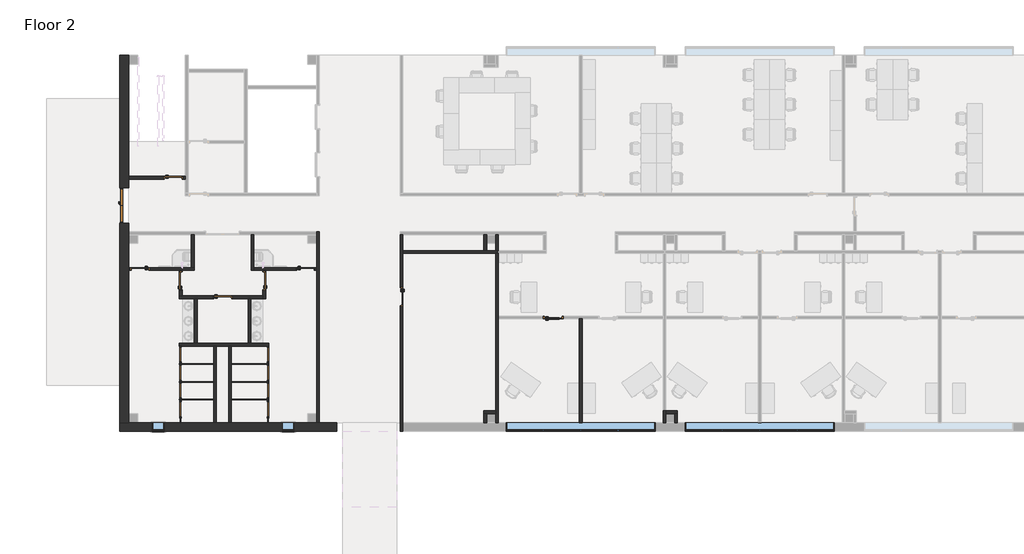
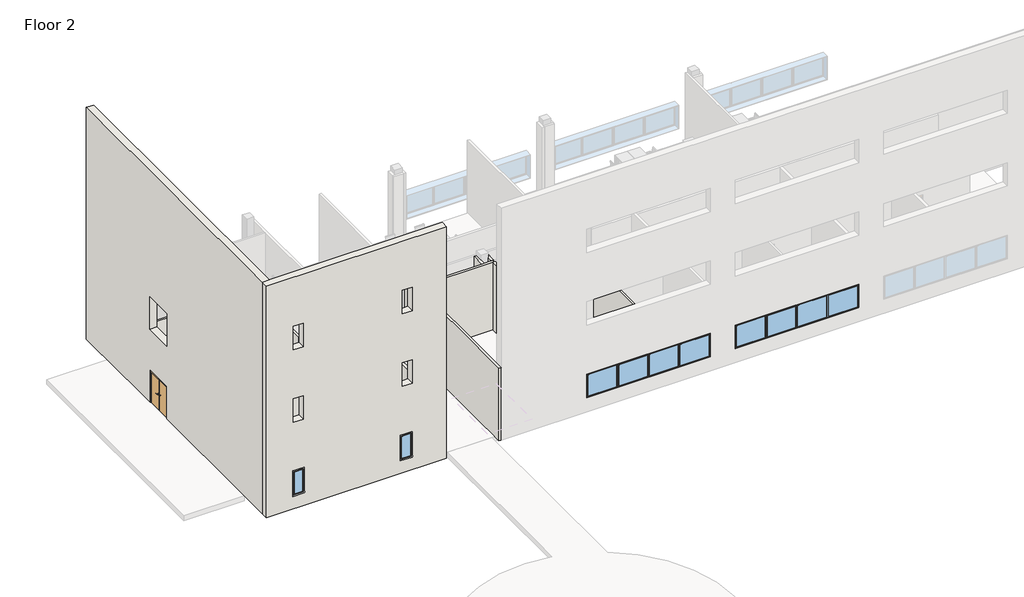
# One storey, part 1 of 6: 41 walls, 17 doors, 4 windows.
"""IFC4 building model written with IfcOpenShell, lengths in millimetres."""

from ifc_helpers import new_model, si_unit, frame, origin, place, context, project, spatial, polyline, outline, extrude, faceted_brep, transform, mapped, element, save
from components import door_efda3cbc, door_36f17018, door_a46f4f49, door_4cfbdd5f, door_b03708da, door_cef5613e, window_casement_multi_sash_horizontal_25_x_5ft_0e5d08e3, window_69ce9bab

model = new_model("IFC4")

# Units and contexts
model_context = context("Model", 3, world=origin())
ifc_project = project(units=[si_unit("LENGTHUNIT", "METRE", prefix="MILLI")], contexts=[model_context])

# Site, building, storey
site = spatial("IfcSite", under=ifc_project)
building = spatial("IfcBuilding", under=site)
storey = spatial("IfcBuildingStorey", under=building, Name="Floor 2", Elevation=5486.4)

# Doors
placement = place(None, origin())
door_shape = door_efda3cbc(model_context)
element("IfcDoor", 1, ObjectType="Door-Passage-Double-Flush : 68\" x 80\"", at=placement, inside=storey, context=model_context, shape_type="MappedRepresentation", body=[
    mapped(door_shape, transform((-3186.4602165, 49707.011889, 5486.4), x_axis=(0.0, 1.0, 0.0), y_axis=(-1.0, 0.0, 0.0), z_axis=(0.0, 0.0, 1.0))),
])
door_2_shape = door_36f17018(model_context)
element("IfcDoor", 2, ObjectType="Door-Passage-Single-Flush : 36\" x 84\"", at=placement, inside=storey, context=model_context, shape_type="MappedRepresentation", body=[
    mapped(door_2_shape, transform((3964.0192024, 45858.911889, 5486.4), x_axis=(0.0, 1.0, 0.0), y_axis=(-1.0, 0.0, 0.0), z_axis=(0.0, 0.0, 1.0))),
])
element("IfcDoor", 3, ObjectType="Door-Passage-Single-Flush : 36\" x 84\"", at=placement, inside=storey, context=model_context, shape_type="MappedRepresentation", body=[
    mapped(door_2_shape, transform((-2380.0102165, 46455.811889, 5486.4), x_axis=(-1.0, 0.0, 0.0), y_axis=(0.0, -1.0, 0.0), z_axis=(0.0, 0.0, 1.0))),
])
door_3_shape = door_a46f4f49(model_context)
element("IfcDoor", 4, ObjectType="Door-Passage-Single-Flush : 36\" x 84\"", at=placement, inside=storey, context=model_context, shape_type="MappedRepresentation", body=[
    mapped(door_3_shape, transform((-684.1807976, 51116.711889, 5486.4), x_axis=(1.0, 0.0, 0.0), y_axis=(0.0, 1.0, 0.0), z_axis=(0.0, 0.0, 1.0))),
])
element("IfcDoor", 5, ObjectType="Door-Passage-Single-Flush : 36\" x 84\"", at=placement, inside=storey, context=model_context, shape_type="MappedRepresentation", body=[
    mapped(door_3_shape, transform((-290.4807976, 45852.561889, 5486.4), x_axis=(0.0, 1.0, 0.0), y_axis=(-1.0, 0.0, 0.0), z_axis=(0.0, 0.0, 1.0))),
])
element("IfcDoor", 6, ObjectType="Door-Passage-Single-Flush : 36\" x 84\"", at=placement, inside=storey, context=model_context, shape_type="MappedRepresentation", body=[
    mapped(door_3_shape, transform((6072.2192024, 46455.811889, 5486.4), x_axis=(1.0, 0.0, 0.0), y_axis=(0.0, 1.0, 0.0), z_axis=(0.0, 0.0, 1.0))),
])
element("IfcDoor", 7, ObjectType="Door-Passage-Single-Flush : 36\" x 84\"", at=placement, inside=storey, context=model_context, shape_type="MappedRepresentation", body=[
    mapped(door_3_shape, transform((1836.7692024, 45008.011889, 5486.4), x_axis=(1.0, 0.0, 0.0), y_axis=(0.0, 1.0, 0.0), z_axis=(0.0, 0.0, 1.0))),
])
element("IfcDoor", 8, ObjectType="Door-Passage-Single-Flush : 36\" x 84\"", at=placement, inside=storey, context=model_context, shape_type="MappedRepresentation", body=[
    mapped(door_3_shape, transform((10974.4192024, 45046.111889, 5486.4), x_axis=(0.0, -1.0, 0.0), y_axis=(1.0, 0.0, 0.0), z_axis=(0.0, 0.0, 1.0))),
])
door_4_shape = door_4cfbdd5f(model_context)
element("IfcDoor", 9, ObjectType="Door-Passage-Single-Full_Lite : 36\" x 84\"", at=placement, inside=storey, context=model_context, shape_type="MappedRepresentation", body=[
    mapped(door_4_shape, transform((18727.7692024, 43985.661889, 5486.4), x_axis=(1.0, 0.0, 0.0), y_axis=(0.0, 1.0, 0.0), z_axis=(0.0, 0.0, 1.0))),
])
door_5_shape = door_b03708da(model_context)
element("IfcDoor", 10, ObjectType="Single-Flush : 30\" x 80\"", at=placement, inside=storey, context=model_context, shape_type="MappedRepresentation", body=[
    mapped(door_5_shape, transform((-322.2307976, 42096.536889, 5486.4), x_axis=(0.0, -1.0, 0.0), y_axis=(1.0, 0.0, 0.0), z_axis=(0.0, 0.0, 1.0))),
])
element("IfcDoor", 11, ObjectType="Single-Flush : 30\" x 80\"", at=placement, inside=storey, context=model_context, shape_type="MappedRepresentation", body=[
    mapped(door_5_shape, transform((-322.2307976, 41169.436889, 5486.4), x_axis=(0.0, -1.0, 0.0), y_axis=(1.0, 0.0, 0.0), z_axis=(0.0, 0.0, 1.0))),
])
element("IfcDoor", 12, ObjectType="Single-Flush : 30\" x 80\"", at=placement, inside=storey, context=model_context, shape_type="MappedRepresentation", body=[
    mapped(door_5_shape, transform((-322.2307976, 40255.036889, 5486.4), x_axis=(0.0, -1.0, 0.0), y_axis=(1.0, 0.0, 0.0), z_axis=(0.0, 0.0, 1.0))),
])
element("IfcDoor", 13, ObjectType="Single-Flush : 30\" x 80\"", at=placement, inside=storey, context=model_context, shape_type="MappedRepresentation", body=[
    mapped(door_5_shape, transform((-322.2307976, 39296.186889, 5486.4), x_axis=(0.0, -1.0, 0.0), y_axis=(1.0, 0.0, 0.0), z_axis=(0.0, 0.0, 1.0))),
])
door_6_shape = door_cef5613e(model_context)
element("IfcDoor", 14, ObjectType="Single-Flush : 30\" x 80\"", at=placement, inside=storey, context=model_context, shape_type="MappedRepresentation", body=[
    mapped(door_6_shape, transform((4148.1692024, 42096.536889, 5486.4), x_axis=(0.0, -1.0, 0.0), y_axis=(1.0, 0.0, 0.0), z_axis=(0.0, 0.0, 1.0))),
])
element("IfcDoor", 15, ObjectType="Single-Flush : 30\" x 80\"", at=placement, inside=storey, context=model_context, shape_type="MappedRepresentation", body=[
    mapped(door_6_shape, transform((4148.1692024, 41169.436889, 5486.4), x_axis=(0.0, -1.0, 0.0), y_axis=(1.0, 0.0, 0.0), z_axis=(0.0, 0.0, 1.0))),
])
element("IfcDoor", 16, ObjectType="Single-Flush : 30\" x 80\"", at=placement, inside=storey, context=model_context, shape_type="MappedRepresentation", body=[
    mapped(door_6_shape, transform((4148.1692024, 40255.036889, 5486.4), x_axis=(0.0, -1.0, 0.0), y_axis=(1.0, 0.0, 0.0), z_axis=(0.0, 0.0, 1.0))),
])
element("IfcDoor", 17, ObjectType="Single-Flush : 30\" x 80\"", at=placement, inside=storey, context=model_context, shape_type="MappedRepresentation", body=[
    mapped(door_6_shape, transform((4148.1692024, 39296.186889, 5486.4), x_axis=(0.0, -1.0, 0.0), y_axis=(1.0, 0.0, 0.0), z_axis=(0.0, 0.0, 1.0))),
])

# Walls
element("IfcWall", 18, ObjectType="Interior - 5 1/2\" Partition (1-hr)", at=placement, inside=storey, context=model_context, shape_type="Brep", body=[
    faceted_brep([(6777.0692024, 38618.324389, 5486.4), (6777.0692024, 48360.811889, 5486.4), (6777.0692024, 48360.811889, 10210.8), (6777.0692024, 38618.324389, 10210.8), (6637.3692024, 38618.324389, 5486.4), (6637.3692024, 38618.324389, 10210.8), (6637.3692024, 48360.811889, 10210.8), (6637.3692024, 48360.811889, 9906.0), (6637.3692024, 48360.811889, 5486.4), (6637.3692024, 48221.111889, 5486.4), (6637.3692024, 46532.011889, 5486.4), (6637.3692024, 46392.311889, 5486.4)], [[[0, 1, 2, 3]], [[4, 5, 6, 7, 8, 9, 10, 11]], [[1, 0, 4, 11, 10, 9, 8]], [[3, 2, 6, 5]], [[2, 1, 8, 7, 6]], [[0, 3, 5, 4]]]),
])
element("IfcWall", 19, ObjectType="Interior - 5 1/2\" Partition (1-hr)", at=placement, inside=storey, context=model_context, shape_type="SweptSolid", body=[
    extrude(outline(polyline([(7721.6, -176.1807976), (5486.4, -176.1807976), (5486.4, -61.8807976), (10210.8, -61.8807976), (10210.8, -2965.7977165), (5486.4, -2965.7977165), (5486.4, -1192.1807976), (7721.6, -1192.1807976), (7721.6, -176.1807976)])), frame((0.0, 51053.211889, 0.0), z_axis=(0.0, 1.0, 0.0), x_axis=(0.0, 0.0, 1.0)), (0.0, 0.0, 1.0), 139.7),
])
element("IfcWall", 20, ObjectType="Interior - 5 1/2\" Partition (1-hr)", at=placement, inside=storey, context=model_context, shape_type="Brep", body=[
    faceted_brep([(3290.9192024, 48221.111889, 5486.4), (3290.9192024, 46392.311889, 5486.4), (3290.9192024, 46392.311889, 9906.0), (3290.9192024, 48221.111889, 9906.0), (3430.6192024, 48221.111889, 5486.4), (3430.6192024, 48221.111889, 9906.0), (3430.6192024, 46532.011889, 9906.0), (3430.6192024, 46392.311889, 9906.0), (3430.6192024, 46392.311889, 5486.4), (3430.6192024, 46532.011889, 5486.4)], [[[0, 1, 2, 3]], [[4, 5, 6, 7, 8, 9]], [[1, 0, 4, 9, 8]], [[2, 1, 8, 7]], [[0, 3, 5, 4]], [[3, 2, 7, 6, 5]]]),
])
element("IfcWall", 21, ObjectType="Interior - 5 1/2\" Partition (1-hr)", at=placement, inside=storey, context=model_context, shape_type="Brep", body=[
    faceted_brep([(6580.2192024, 46392.311889, 7721.6), (6580.2192024, 46392.311889, 5486.4), (6637.3692024, 46392.311889, 5486.4), (6637.3692024, 46392.311889, 9906.0), (4040.2192024, 46392.311889, 9906.0), (3900.5192024, 46392.311889, 9906.0), (3430.6192024, 46392.311889, 9906.0), (3430.6192024, 46392.311889, 5486.4), (3900.5192024, 46392.311889, 5486.4), (4040.2192024, 46392.311889, 5486.4), (5564.2192024, 46392.311889, 5486.4), (5564.2192024, 46392.311889, 7721.6), (6637.3692024, 46532.011889, 5486.4), (6580.2192024, 46532.011889, 5486.4), (6580.2192024, 46532.011889, 7721.6), (5564.2192024, 46532.011889, 7721.6), (5564.2192024, 46532.011889, 5486.4), (3430.6192024, 46532.011889, 5486.4), (3430.6192024, 46532.011889, 9906.0), (6637.3692024, 46532.011889, 9906.0)], [[[0, 1, 2, 3, 4, 5, 6, 7, 8, 9, 10, 11]], [[12, 13, 14, 15, 16, 17, 18, 19]], [[2, 1, 13, 12]], [[10, 9, 8, 7, 17, 16]], [[7, 6, 18, 17]], [[3, 2, 12, 19]], [[6, 5, 4, 3, 19, 18]], [[14, 13, 1, 0]], [[15, 14, 0, 11]], [[16, 15, 11, 10]]]),
])
element("IfcWall", 22, ObjectType="Interior - 5 1/2\" Partition (1-hr)", at=placement, inside=storey, context=model_context, shape_type="Brep", body=[
    faceted_brep([(-2965.7977165, 46392.311889, 10210.8), (382.6192024, 46392.311889, 10210.8), (382.6192024, 46532.011889, 10210.8), (-2965.7977165, 46532.011889, 10210.8), (-2965.7977165, 46392.311889, 5486.4), (-2888.0102165, 46392.311889, 5486.4), (-2888.0102165, 46392.311889, 7721.6), (-1872.0102165, 46392.311889, 7721.6), (-1872.0102165, 46392.311889, 5486.4), (-366.6807976, 46392.311889, 5486.4), (-226.9807976, 46392.311889, 5486.4), (382.6192024, 46392.311889, 5486.4), (-2888.0102165, 46532.011889, 7721.6), (-2888.0102165, 46532.011889, 5486.4), (-2965.7977165, 46532.011889, 5486.4), (382.6192024, 46532.011889, 9906.0), (382.6192024, 46532.011889, 5486.4), (242.9192024, 46532.011889, 5486.4), (-1872.0102165, 46532.011889, 5486.4), (-1872.0102165, 46532.011889, 7721.6)], [[[0, 1, 2, 3]], [[4, 5, 6, 7, 8, 9, 10, 11, 1, 0]], [[12, 13, 14, 3, 2, 15, 16, 17, 18, 19]], [[14, 13, 5, 4]], [[18, 17, 16, 11, 10, 9, 8]], [[1, 11, 16, 15, 2]], [[4, 0, 3, 14]], [[6, 5, 13, 12]], [[7, 6, 12, 19]], [[8, 7, 19, 18]]]),
])
element("IfcWall", 23, ObjectType="Interior - 5 1/2\" Partition (1-hr)", at=placement, inside=storey, context=model_context, shape_type="SweptSolid", body=[
    extrude(outline(polyline([(382.6192024, 48221.111889), (382.6192024, 46532.011889), (242.9192024, 46532.011889), (242.9192024, 48221.111889), (382.6192024, 48221.111889)])), frame((0.0, 0.0, 5486.4), z_axis=(0.0, 0.0, 1.0), x_axis=(1.0, 0.0, 0.0)), (0.0, 0.0, 1.0), 4419.6),
])
element("IfcWall", 24, ObjectType="Interior - 5 1/2\" Partition (1-hr)", at=placement, inside=storey, context=model_context, shape_type="Brep", body=[
    faceted_brep([(3900.5192024, 46392.311889, 5486.4), (3900.5192024, 46366.911889, 5486.4), (3900.5192024, 46366.911889, 7721.6), (3900.5192024, 45350.911889, 7721.6), (3900.5192024, 45350.911889, 5486.4), (3900.5192024, 45084.211889, 5486.4), (3900.5192024, 44944.511889, 5486.4), (3900.5192024, 44944.511889, 9906.0), (3900.5192024, 45084.211889, 9906.0), (3900.5192024, 46392.311889, 9906.0), (4040.2192024, 46366.911889, 7721.6), (4040.2192024, 46366.911889, 5486.4), (4040.2192024, 46392.311889, 5486.4), (4040.2192024, 46392.311889, 9906.0), (4040.2192024, 44944.511889, 9906.0), (4040.2192024, 44944.511889, 5486.4), (4040.2192024, 45350.911889, 5486.4), (4040.2192024, 45350.911889, 7721.6)], [[[0, 1, 2, 3, 4, 5, 6, 7, 8, 9]], [[10, 11, 12, 13, 14, 15, 16, 17]], [[12, 11, 1, 0]], [[16, 15, 6, 5, 4]], [[0, 9, 13, 12]], [[7, 6, 15, 14]], [[9, 8, 7, 14, 13]], [[2, 1, 11, 10]], [[3, 2, 10, 17]], [[4, 3, 17, 16]]]),
])
element("IfcWall", 25, ObjectType="Interior - 5 1/2\" Partition (1-hr)", at=placement, inside=storey, context=model_context, shape_type="Brep", body=[
    faceted_brep([(3900.5192024, 45084.211889, 5486.4), (2344.7692024, 45084.211889, 5486.4), (2344.7692024, 45084.211889, 7721.6), (1328.7692024, 45084.211889, 7721.6), (1328.7692024, 45084.211889, 5486.4), (-226.9807976, 45084.211889, 5486.4), (-366.6807976, 45084.211889, 5486.4), (-366.6807976, 45084.211889, 9906.0), (-226.9807976, 45084.211889, 9906.0), (3900.5192024, 45084.211889, 9906.0), (2344.7692024, 44944.511889, 7721.6), (2344.7692024, 44944.511889, 5486.4), (3138.5192024, 44944.511889, 5486.4), (3278.2192024, 44944.511889, 5486.4), (3900.5192024, 44944.511889, 5486.4), (3900.5192024, 44944.511889, 9906.0), (3278.2192024, 44944.511889, 9906.0), (3138.5192024, 44944.511889, 9906.0), (535.0192024, 44944.511889, 9906.0), (395.3192024, 44944.511889, 9906.0), (-366.6807976, 44944.511889, 9906.0), (-366.6807976, 44944.511889, 5486.4), (395.3192024, 44944.511889, 5486.4), (535.0192024, 44944.511889, 5486.4), (1328.7692024, 44944.511889, 5486.4), (1328.7692024, 44944.511889, 7721.6)], [[[0, 1, 2, 3, 4, 5, 6, 7, 8, 9]], [[10, 11, 12, 13, 14, 15, 16, 17, 18, 19, 20, 21, 22, 23, 24, 25]], [[14, 13, 12, 11, 1, 0]], [[24, 23, 22, 21, 6, 5, 4]], [[0, 9, 15, 14]], [[7, 6, 21, 20]], [[9, 8, 7, 20, 19, 18, 17, 16, 15]], [[2, 1, 11, 10]], [[3, 2, 10, 25]], [[4, 3, 25, 24]]]),
])
element("IfcWall", 26, ObjectType="Interior - 5 1/2\" Partition (1-hr)", at=placement, inside=storey, context=model_context, shape_type="Brep", body=[
    faceted_brep([(2147.9192024, 42518.811889, 5486.4), (2147.9192024, 38618.324389, 5486.4), (2147.9192024, 38618.324389, 10210.8), (2147.9192024, 42518.811889, 10210.8), (2287.6192024, 42518.811889, 5486.4), (2287.6192024, 42518.811889, 10210.8), (2287.6192024, 38618.324389, 10210.8), (2287.6192024, 38618.324389, 5486.4), (2287.6192024, 39788.311889, 5486.4), (2287.6192024, 39813.711889, 5486.4), (2287.6192024, 40677.311889, 5486.4), (2287.6192024, 40702.711889, 5486.4), (2287.6192024, 41591.711889, 5486.4), (2287.6192024, 41617.111889, 5486.4)], [[[0, 1, 2, 3]], [[4, 5, 6, 7, 8, 9, 10, 11, 12, 13]], [[1, 0, 4, 13, 12, 11, 10, 9, 8, 7]], [[3, 2, 6, 5]], [[0, 3, 5, 4]], [[2, 1, 7, 6]]]),
])
element("IfcWall", 27, ObjectType="Interior - 5 1/2\" Partition (1-hr)", at=placement, inside=storey, context=model_context, shape_type="Brep", body=[
    faceted_brep([(-373.0307976, 42518.811889, 5486.4), (-334.9307976, 42518.811889, 5486.4), (-309.5307976, 42518.811889, 5486.4), (1385.9192024, 42518.811889, 5486.4), (1525.6192024, 42518.811889, 5486.4), (2147.9192024, 42518.811889, 5486.4), (2287.6192024, 42518.811889, 5486.4), (4135.4692024, 42518.811889, 5486.4), (4160.8692024, 42518.811889, 5486.4), (4198.9692024, 42518.811889, 5486.4), (4198.9692024, 42518.811889, 9906.0), (-373.0307976, 42518.811889, 9906.0), (-373.0307976, 42658.511889, 5486.4), (-373.0307976, 42658.511889, 9906.0), (395.3192024, 42658.511889, 9906.0), (535.0192024, 42658.511889, 9906.0), (3138.5192024, 42658.511889, 9906.0), (3278.2192024, 42658.511889, 9906.0), (4198.9692024, 42658.511889, 9906.0), (4198.9692024, 42658.511889, 5486.4), (3278.2192024, 42658.511889, 5486.4), (3138.5192024, 42658.511889, 5486.4), (535.0192024, 42658.511889, 5486.4), (395.3192024, 42658.511889, 5486.4)], [[[0, 1, 2, 3, 4, 5, 6, 7, 8, 9, 10, 11]], [[12, 13, 14, 15, 16, 17, 18, 19, 20, 21, 22, 23]], [[9, 8, 7, 6, 5, 4, 3, 2, 1, 0, 12, 23, 22, 21, 20, 19]], [[10, 9, 19, 18]], [[0, 11, 13, 12]], [[11, 10, 18, 17, 16, 15, 14, 13]]]),
])
element("IfcWall", 28, ObjectType="Interior - 5 1/2\" Partition (1-hr)", at=placement, inside=storey, context=model_context, shape_type="SweptSolid", body=[
    extrude(outline(polyline([(3278.2192024, 44944.511889), (3278.2192024, 42658.511889), (3138.5192024, 42658.511889), (3138.5192024, 44944.511889), (3278.2192024, 44944.511889)])), frame((0.0, 0.0, 5486.4), z_axis=(0.0, 0.0, 1.0), x_axis=(1.0, 0.0, 0.0)), (0.0, 0.0, 1.0), 4419.6),
])
element("IfcWall", 29, ObjectType="Interior - 5 1/2\" Partition (1-hr)", at=placement, inside=storey, context=model_context, shape_type="Brep", body=[
    faceted_brep([(1385.9192024, 42518.811889, 5486.4), (1385.9192024, 41617.111889, 5486.4), (1385.9192024, 41591.711889, 5486.4), (1385.9192024, 40702.711889, 5486.4), (1385.9192024, 40677.311889, 5486.4), (1385.9192024, 39813.711889, 5486.4), (1385.9192024, 39788.311889, 5486.4), (1385.9192024, 38618.324389, 5486.4), (1385.9192024, 38618.324389, 10210.8), (1385.9192024, 42518.811889, 10210.8), (1525.6192024, 42518.811889, 5486.4), (1525.6192024, 42518.811889, 10210.8), (1525.6192024, 38618.324389, 10210.8), (1525.6192024, 38618.324389, 5486.4)], [[[0, 1, 2, 3, 4, 5, 6, 7, 8, 9]], [[10, 11, 12, 13]], [[7, 6, 5, 4, 3, 2, 1, 0, 10, 13]], [[9, 8, 12, 11]], [[0, 9, 11, 10]], [[8, 7, 13, 12]]]),
])
element("IfcWall", 30, ObjectType="Interior - 5 1/2\" Partition (1-hr)", at=placement, inside=storey, context=model_context, shape_type="SweptSolid", body=[
    extrude(outline(polyline([(46392.311889, 5486.4), (46360.561889, 5486.4), (46360.561889, 7721.6), (45344.561889, 7721.6), (45344.561889, 5486.4), (45084.211889, 5486.4), (45084.211889, 9906.0), (46392.311889, 9906.0), (46392.311889, 5486.4)])), frame((-366.6807976, 0.0, 0.0), z_axis=(1.0, 0.0, 0.0), x_axis=(0.0, 1.0, 0.0)), (0.0, 0.0, 1.0), 139.7),
])
element("IfcWall", 31, ObjectType="Interior - 5 1/2\" Partition (1-hr)", at=placement, inside=storey, context=model_context, shape_type="SweptSolid", body=[
    extrude(outline(polyline([(395.3192024, 42658.511889), (395.3192024, 44944.511889), (535.0192024, 44944.511889), (535.0192024, 42658.511889), (395.3192024, 42658.511889)])), frame((0.0, 0.0, 5486.4), z_axis=(0.0, 0.0, 1.0), x_axis=(1.0, 0.0, 0.0)), (0.0, 0.0, 1.0), 4419.6),
])
element("IfcWall", 32, ObjectType="Interior - 5 1/2\" Partition (1-hr)", at=placement, inside=storey, context=model_context, shape_type="Brep", body=[
    faceted_brep([(10910.9192024, 48221.111889, 10210.8), (10910.9192024, 38164.299389, 10210.8), (11050.6192024, 38164.299389, 10210.8), (11050.6192024, 48221.111889, 10210.8), (11050.6192024, 38164.299389, 5486.4), (11050.6192024, 38618.324389, 5486.4), (11050.6192024, 44538.111889, 5486.4), (11050.6192024, 44538.111889, 7721.6), (11050.6192024, 45554.111889, 7721.6), (11050.6192024, 45554.111889, 5486.4), (11050.6192024, 47262.261889, 5486.4), (11050.6192024, 47401.961889, 5486.4), (11050.6192024, 48221.111889, 5486.4), (10910.9192024, 48221.111889, 9906.0), (10910.9192024, 48221.111889, 5486.4), (10910.9192024, 45554.111889, 5486.4), (10910.9192024, 45554.111889, 7721.6), (10910.9192024, 44538.111889, 7721.6), (10910.9192024, 44538.111889, 5486.4), (10910.9192024, 38164.299389, 5486.4)], [[[0, 1, 2, 3]], [[3, 2, 4, 5, 6, 7, 8, 9, 10, 11, 12]], [[1, 0, 13, 14, 15, 16, 17, 18, 19]], [[14, 12, 11, 10, 9, 15]], [[4, 19, 18, 6, 5]], [[14, 13, 0, 3, 12]], [[1, 19, 4, 2]], [[17, 7, 6, 18]], [[7, 17, 16, 8]], [[8, 16, 15, 9]]]),
])
element("IfcWall", 33, ObjectType="Interior - 5 1/2\" Partition (1-hr)", at=placement, inside=storey, context=model_context, shape_type="Brep", body=[
    faceted_brep([(15324.1692024, 47401.961889, 5486.4), (15324.1692024, 47763.911889, 5486.4), (15324.1692024, 48221.111889, 5486.4), (15324.1692024, 48221.111889, 9906.0), (15324.1692024, 47401.961889, 9906.0), (15184.4692024, 47401.961889, 5486.4), (15184.4692024, 47401.961889, 9906.0), (15184.4692024, 48221.111889, 9906.0), (15184.4692024, 48221.111889, 5486.4)], [[[0, 1, 2, 3, 4]], [[5, 6, 7, 8]], [[2, 1, 0, 5, 8]], [[0, 4, 6, 5]], [[3, 2, 8, 7]], [[4, 3, 7, 6]]]),
])
element("IfcWall", 34, ObjectType="Interior - 5 1/2\" Partition (1-hr)", at=placement, inside=storey, context=model_context, shape_type="Brep", body=[
    faceted_brep([(15921.0692024, 47401.961889, 5486.4), (15921.0692024, 48221.111889, 5486.4), (15921.0692024, 48221.111889, 9906.0), (15921.0692024, 47401.961889, 9906.0), (15781.3692024, 47401.961889, 5486.4), (15781.3692024, 47401.961889, 9906.0), (15781.3692024, 48221.111889, 9906.0), (15781.3692024, 48221.111889, 5486.4), (15781.3692024, 47763.911889, 5486.4), (15851.2192024, 47401.961889, 5486.4), (15851.2192024, 47401.961889, 9906.0)], [[[0, 1, 2, 3]], [[4, 5, 6, 7, 8]], [[1, 0, 9, 4, 8, 7]], [[0, 3, 10, 5, 4, 9]], [[2, 1, 7, 6]], [[3, 2, 6, 5, 10]]]),
])
element("IfcWall", 35, ObjectType="Interior - 5 1/2\" Partition (1-hr)", at=placement, inside=storey, context=model_context, shape_type="Brep", body=[
    faceted_brep([(15921.0692024, 47262.261889, 5486.4), (15921.0692024, 47262.261889, 9906.0), (15921.0692024, 38618.324389, 9906.0), (15921.0692024, 38618.324389, 5486.4), (15921.0692024, 43909.461889, 5486.4), (15921.0692024, 44049.161889, 5486.4), (15781.3692024, 47262.261889, 5486.4), (15781.3692024, 39216.811889, 5486.4), (15781.3692024, 39077.111889, 5486.4), (15781.3692024, 38619.911889, 5486.4), (15781.3692024, 38618.324389, 5486.4), (15781.3692024, 38618.324389, 9906.0), (15781.3692024, 39077.111889, 9906.0), (15781.3692024, 39216.811889, 9906.0), (15781.3692024, 47262.261889, 9906.0), (15851.2192024, 47262.261889, 5486.4), (15851.2192024, 47262.261889, 9906.0)], [[[0, 1, 2, 3, 4, 5]], [[6, 7, 8, 9, 10, 11, 12, 13, 14]], [[10, 9, 8, 7, 6, 15, 0, 5, 4, 3]], [[14, 13, 12, 11, 2, 1, 16]], [[6, 14, 16, 1, 0, 15]], [[11, 10, 3, 2]]]),
])
element("IfcWall", 36, ObjectType="Interior - 5 1/2\" Partition (1-hr)", at=placement, inside=storey, context=model_context, shape_type="Brep", body=[
    faceted_brep([(15781.3692024, 39216.811889, 5486.4), (15184.4692024, 39216.811889, 5486.4), (15184.4692024, 39216.811889, 9906.0), (15781.3692024, 39216.811889, 9906.0), (15781.3692024, 39077.111889, 5486.4), (15781.3692024, 39077.111889, 9906.0), (15324.1692024, 39077.111889, 9906.0), (15184.4692024, 39077.111889, 9906.0), (15184.4692024, 39077.111889, 5486.4), (15324.1692024, 39077.111889, 5486.4)], [[[0, 1, 2, 3]], [[4, 5, 6, 7, 8, 9]], [[1, 0, 4, 9, 8]], [[2, 1, 8, 7]], [[0, 3, 5, 4]], [[3, 2, 7, 6, 5]]]),
])
element("IfcWall", 37, ObjectType="Interior - 5 1/2\" Partition (1-hr)", at=placement, inside=storey, context=model_context, shape_type="Brep", body=[
    faceted_brep([(15184.4692024, 39077.111889, 5486.4), (15184.4692024, 38618.324389, 5486.4), (15184.4692024, 38618.324389, 9906.0), (15184.4692024, 39077.111889, 9906.0), (15324.1692024, 39077.111889, 5486.4), (15324.1692024, 39077.111889, 9906.0), (15324.1692024, 38618.324389, 9906.0), (15324.1692024, 38618.324389, 5486.4), (15324.1692024, 38619.911889, 5486.4)], [[[0, 1, 2, 3]], [[4, 5, 6, 7, 8]], [[1, 0, 4, 8, 7]], [[0, 3, 5, 4]], [[2, 1, 7, 6]], [[3, 2, 6, 5]]]),
])
element("IfcWall", 38, ObjectType="Interior - 5 1/2\" Partition (1-hr)", at=placement, inside=storey, context=model_context, shape_type="Brep", body=[
    faceted_brep([(24468.1692024, 38618.324389, 5486.4), (24468.1692024, 38619.911889, 5486.4), (24468.1692024, 39077.111889, 5486.4), (24468.1692024, 39216.811889, 5486.4), (24468.1692024, 39216.811889, 9906.0), (24468.1692024, 39077.111889, 9906.0), (24468.1692024, 38618.324389, 9906.0), (24328.4692024, 38618.324389, 5486.4), (24328.4692024, 38618.324389, 9906.0), (24328.4692024, 39216.811889, 9906.0), (24328.4692024, 39216.811889, 5486.4)], [[[0, 1, 2, 3, 4, 5, 6]], [[7, 8, 9, 10]], [[3, 2, 1, 0, 7, 10]], [[4, 3, 10, 9]], [[0, 6, 8, 7]], [[6, 5, 4, 9, 8]]]),
])
element("IfcWall", 39, ObjectType="Interior - 5 1/2\" Partition (1-hr)", at=placement, inside=storey, context=model_context, shape_type="Brep", body=[
    faceted_brep([(24468.1692024, 39077.111889, 5486.4), (24925.3692024, 39077.111889, 5486.4), (25065.0692024, 39077.111889, 5486.4), (25065.0692024, 39077.111889, 9906.0), (24925.3692024, 39077.111889, 9906.0), (24468.1692024, 39077.111889, 9906.0), (24468.1692024, 39216.811889, 5486.4), (24468.1692024, 39216.811889, 9906.0), (25065.0692024, 39216.811889, 9906.0), (25065.0692024, 39216.811889, 5486.4)], [[[0, 1, 2, 3, 4, 5]], [[6, 7, 8, 9]], [[2, 1, 0, 6, 9]], [[3, 2, 9, 8]], [[0, 5, 7, 6]], [[5, 4, 3, 8, 7]]]),
])
element("IfcWall", 40, ObjectType="Interior - 5 1/2\" Partition (1-hr)", at=placement, inside=storey, context=model_context, shape_type="Brep", body=[
    faceted_brep([(24925.3692024, 39077.111889, 5486.4), (24925.3692024, 38619.911889, 5486.4), (24925.3692024, 38618.324389, 5486.4), (24925.3692024, 38618.324389, 9906.0), (24925.3692024, 39077.111889, 9906.0), (25065.0692024, 39077.111889, 5486.4), (25065.0692024, 39077.111889, 9906.0), (25065.0692024, 38618.324389, 9906.0), (25065.0692024, 38618.324389, 5486.4)], [[[0, 1, 2, 3, 4]], [[5, 6, 7, 8]], [[2, 1, 0, 5, 8]], [[0, 4, 6, 5]], [[3, 2, 8, 7]], [[4, 3, 7, 6]]]),
])
element("IfcWall", 41, ObjectType="Interior - 5 1/2\" Partition (1-hr)", at=placement, inside=storey, context=model_context, shape_type="SweptSolid", body=[
    extrude(outline(polyline([(20054.9192024, 38618.324389), (20054.9192024, 43909.461889), (20194.6192024, 43909.461889), (20194.6192024, 38618.324389), (20054.9192024, 38618.324389)])), frame((0.0, 0.0, 5486.4), z_axis=(0.0, 0.0, 1.0), x_axis=(1.0, 0.0, 0.0)), (0.0, 0.0, 1.0), 4724.4),
])
element("IfcWall", 42, ObjectType="Interior - 5 1/2\" Partition (1-hr)", at=placement, inside=storey, context=model_context, shape_type="Brep", body=[
    faceted_brep([(15851.2192024, 47401.961889, 5486.4), (15781.3692024, 47401.961889, 5486.4), (15324.1692024, 47401.961889, 5486.4), (15184.4692024, 47401.961889, 5486.4), (11050.6192024, 47401.961889, 5486.4), (11050.6192024, 47401.961889, 9906.0), (15184.4692024, 47401.961889, 9906.0), (15324.1692024, 47401.961889, 9906.0), (15781.3692024, 47401.961889, 9906.0), (15851.2192024, 47401.961889, 9906.0), (15851.2192024, 47262.261889, 5486.4), (15851.2192024, 47262.261889, 9906.0), (15781.3692024, 47262.261889, 9906.0), (11050.6192024, 47262.261889, 9906.0), (11050.6192024, 47262.261889, 5486.4), (15781.3692024, 47262.261889, 5486.4)], [[[0, 1, 2, 3, 4, 5, 6, 7, 8, 9]], [[10, 11, 12, 13, 14, 15]], [[4, 3, 2, 1, 0, 10, 15, 14]], [[0, 9, 11, 10]], [[5, 4, 14, 13]], [[9, 8, 7, 6, 5, 13, 12, 11]]]),
])
element("IfcWall", 43, ObjectType="Stone on CMU", at=placement, inside=storey, context=model_context, shape_type="Brep", body=[
    faceted_brep([(7675.2526119, 38618.324389, 5486.4), (6777.0692024, 38618.324389, 5486.4), (6637.3692024, 38618.324389, 5486.4), (4160.8692024, 38618.324389, 5486.4), (4135.4692024, 38618.324389, 5486.4), (2287.6192024, 38618.324389, 5486.4), (2147.9192024, 38618.324389, 5486.4), (1525.6192024, 38618.324389, 5486.4), (1385.9192024, 38618.324389, 5486.4), (-309.5307976, 38618.324389, 5486.4), (-334.9307976, 38618.324389, 5486.4), (-2965.7977165, 38618.324389, 5486.4), (-3419.8227165, 38618.324389, 5486.4), (-3419.8227165, 38618.324389, 20574.0), (-2965.7977165, 38618.324389, 20574.0), (7675.2526119, 38618.324389, 20574.0), (7675.2526119, 38618.324389, 19659.6), (-1750.9807976, 38618.324389, 17373.6), (-1750.9807976, 38618.324389, 15849.6), (-1141.3807976, 38618.324389, 15849.6), (-1141.3807976, 38618.324389, 17373.6), (4954.6192024, 38618.324389, 17373.6), (4954.6192024, 38618.324389, 15849.6), (5564.2192024, 38618.324389, 15849.6), (5564.2192024, 38618.324389, 17373.6), (-1750.9807976, 38618.324389, 12649.2), (-1750.9807976, 38618.324389, 11125.2), (-1141.3807976, 38618.324389, 11125.2), (-1141.3807976, 38618.324389, 12649.2), (4954.6192024, 38618.324389, 12649.2), (4954.6192024, 38618.324389, 11125.2), (5564.2192024, 38618.324389, 11125.2), (5564.2192024, 38618.324389, 12649.2), (-1750.9807976, 38618.324389, 7924.8), (-1750.9807976, 38618.324389, 6400.8), (-1141.3807976, 38618.324389, 6400.8), (-1141.3807976, 38618.324389, 7924.8), (4884.7692024, 38618.324389, 7924.8), (4884.7692024, 38618.324389, 6400.8), (5494.3692024, 38618.324389, 6400.8), (5494.3692024, 38618.324389, 7924.8), (7675.2526119, 38164.299389, 5486.4), (7675.2526119, 38164.299389, 20574.0), (-3419.8227165, 38164.299389, 20574.0), (-3419.8227165, 38164.299389, 5486.4), (-1750.9807976, 38164.299389, 17373.6), (-1141.3807976, 38164.299389, 17373.6), (-1141.3807976, 38164.299389, 15849.6), (-1750.9807976, 38164.299389, 15849.6), (4954.6192024, 38164.299389, 17373.6), (5564.2192024, 38164.299389, 17373.6), (5564.2192024, 38164.299389, 15849.6), (4954.6192024, 38164.299389, 15849.6), (-1750.9807976, 38164.299389, 12649.2), (-1141.3807976, 38164.299389, 12649.2), (-1141.3807976, 38164.299389, 11125.2), (-1750.9807976, 38164.299389, 11125.2), (4954.6192024, 38164.299389, 12649.2), (5564.2192024, 38164.299389, 12649.2), (5564.2192024, 38164.299389, 11125.2), (4954.6192024, 38164.299389, 11125.2), (-1750.9807976, 38164.299389, 7924.8), (-1141.3807976, 38164.299389, 7924.8), (-1141.3807976, 38164.299389, 6400.8), (-1750.9807976, 38164.299389, 6400.8), (4884.7692024, 38164.299389, 7924.8), (5494.3692024, 38164.299389, 7924.8), (5494.3692024, 38164.299389, 6400.8), (4884.7692024, 38164.299389, 6400.8)], [[[0, 1, 2, 3, 4, 5, 6, 7, 8, 9, 10, 11, 12, 13, 14, 15, 16], [17, 18, 19, 20], [21, 22, 23, 24], [25, 26, 27, 28], [29, 30, 31, 32], [33, 34, 35, 36], [37, 38, 39, 40]], [[41, 42, 43, 44], [45, 46, 47, 48], [49, 50, 51, 52], [53, 54, 55, 56], [57, 58, 59, 60], [61, 62, 63, 64], [65, 66, 67, 68]], [[12, 11, 10, 9, 8, 7, 6, 5, 4, 3, 2, 1, 0, 41, 44]], [[15, 14, 13, 43, 42]], [[13, 12, 44, 43]], [[0, 16, 15, 42, 41]], [[18, 17, 45, 48]], [[19, 18, 48, 47]], [[20, 19, 47, 46]], [[17, 20, 46, 45]], [[22, 21, 49, 52]], [[23, 22, 52, 51]], [[24, 23, 51, 50]], [[21, 24, 50, 49]], [[26, 25, 53, 56]], [[27, 26, 56, 55]], [[28, 27, 55, 54]], [[25, 28, 54, 53]], [[30, 29, 57, 60]], [[31, 30, 60, 59]], [[32, 31, 59, 58]], [[29, 32, 58, 57]], [[34, 33, 61, 64]], [[35, 34, 64, 63]], [[36, 35, 63, 62]], [[33, 36, 62, 61]], [[38, 37, 65, 68]], [[39, 38, 68, 67]], [[40, 39, 67, 66]], [[37, 40, 66, 65]]]),
])
element("IfcWall", 44, ObjectType="Stone on CMU", at=placement, inside=storey, context=model_context, shape_type="Brep", body=[
    faceted_brep([(-2965.7977165, 57366.699389, 20574.0), (-2965.7977165, 38618.324389, 20574.0), (-2965.7977165, 38618.324389, 5486.4), (-2965.7977165, 46392.311889, 5486.4), (-2965.7977165, 46532.011889, 5486.4), (-2965.7977165, 48221.111889, 5486.4), (-2965.7977165, 48360.811889, 5486.4), (-2965.7977165, 48792.611889, 5486.4), (-2965.7977165, 48792.611889, 7620.0), (-2965.7977165, 50621.411889, 7620.0), (-2965.7977165, 50621.411889, 5486.4), (-2965.7977165, 51053.211889, 5486.4), (-2965.7977165, 51192.911889, 5486.4), (-2965.7977165, 57366.699389, 5486.4), (-2965.7977165, 50621.411889, 10210.8), (-2965.7977165, 48792.611889, 10210.8), (-2965.7977165, 48792.611889, 12344.4), (-2965.7977165, 50621.411889, 12344.4), (-3419.8227165, 38618.324389, 20574.0), (-3419.8227165, 57366.699389, 20574.0), (-3419.8227165, 57366.699389, 5486.4), (-3419.8227165, 50621.411889, 5486.4), (-3419.8227165, 50621.411889, 7620.0), (-3419.8227165, 48792.611889, 7620.0), (-3419.8227165, 48792.611889, 5486.4), (-3419.8227165, 38618.324389, 5486.4), (-3419.8227165, 50621.411889, 10210.8), (-3419.8227165, 50621.411889, 12344.4), (-3419.8227165, 48792.611889, 12344.4), (-3419.8227165, 48792.611889, 10210.8)], [[[0, 1, 2, 3, 4, 5, 6, 7, 8, 9, 10, 11, 12, 13], [14, 15, 16, 17]], [[18, 19, 20, 21, 22, 23, 24, 25], [26, 27, 28, 29]], [[2, 25, 24, 7, 6, 5, 4, 3]], [[20, 13, 12, 11, 10, 21]], [[1, 0, 19, 18]], [[2, 1, 18, 25]], [[0, 13, 20, 19]], [[9, 22, 21, 10]], [[22, 9, 8, 23]], [[23, 8, 7, 24]], [[27, 26, 14, 17]], [[28, 27, 17, 16]], [[29, 28, 16, 15]], [[26, 29, 15, 14]]]),
])
element("IfcWall", 45, ObjectType="toilet partition - 1\"", at=placement, inside=storey, context=model_context, shape_type="Brep", body=[
    faceted_brep([(2287.6192024, 39788.311889, 5486.4), (4135.4692024, 39788.311889, 5486.4), (4160.8692024, 39788.311889, 5486.4), (4198.9692024, 39788.311889, 5486.4), (4198.9692024, 39788.311889, 7924.8), (4160.8692024, 39788.311889, 7924.8), (4135.4692024, 39788.311889, 7924.8), (2287.6192024, 39788.311889, 7924.8), (2287.6192024, 39813.711889, 5486.4), (2287.6192024, 39813.711889, 7924.8), (4135.4692024, 39813.711889, 7924.8), (4160.8692024, 39813.711889, 7924.8), (4198.9692024, 39813.711889, 7924.8), (4198.9692024, 39813.711889, 5486.4), (4160.8692024, 39813.711889, 5486.4), (4135.4692024, 39813.711889, 5486.4)], [[[0, 1, 2, 3, 4, 5, 6, 7]], [[8, 9, 10, 11, 12, 13, 14, 15]], [[3, 2, 1, 0, 8, 15, 14, 13]], [[4, 3, 13, 12]], [[7, 6, 5, 4, 12, 11, 10, 9]], [[0, 7, 9, 8]]]),
])
element("IfcWall", 46, ObjectType="toilet partition - 1\"", at=placement, inside=storey, context=model_context, shape_type="Brep", body=[
    faceted_brep([(2287.6192024, 40677.311889, 5486.4), (4135.4692024, 40677.311889, 5486.4), (4160.8692024, 40677.311889, 5486.4), (4198.9692024, 40677.311889, 5486.4), (4198.9692024, 40677.311889, 7924.8), (4160.8692024, 40677.311889, 7924.8), (4135.4692024, 40677.311889, 7924.8), (2287.6192024, 40677.311889, 7924.8), (2287.6192024, 40702.711889, 5486.4), (2287.6192024, 40702.711889, 7924.8), (4135.4692024, 40702.711889, 7924.8), (4160.8692024, 40702.711889, 7924.8), (4198.9692024, 40702.711889, 7924.8), (4198.9692024, 40702.711889, 5486.4), (4160.8692024, 40702.711889, 5486.4), (4135.4692024, 40702.711889, 5486.4)], [[[0, 1, 2, 3, 4, 5, 6, 7]], [[8, 9, 10, 11, 12, 13, 14, 15]], [[3, 2, 1, 0, 8, 15, 14, 13]], [[4, 3, 13, 12]], [[7, 6, 5, 4, 12, 11, 10, 9]], [[0, 7, 9, 8]]]),
])
element("IfcWall", 47, ObjectType="toilet partition - 1\"", at=placement, inside=storey, context=model_context, shape_type="Brep", body=[
    faceted_brep([(2287.6192024, 41591.711889, 5486.4), (4135.4692024, 41591.711889, 5486.4), (4160.8692024, 41591.711889, 5486.4), (4198.9692024, 41591.711889, 5486.4), (4198.9692024, 41591.711889, 7924.8), (4160.8692024, 41591.711889, 7924.8), (4135.4692024, 41591.711889, 7924.8), (2287.6192024, 41591.711889, 7924.8), (2287.6192024, 41617.111889, 5486.4), (2287.6192024, 41617.111889, 7924.8), (4135.4692024, 41617.111889, 7924.8), (4160.8692024, 41617.111889, 7924.8), (4198.9692024, 41617.111889, 7924.8), (4198.9692024, 41617.111889, 5486.4), (4160.8692024, 41617.111889, 5486.4), (4135.4692024, 41617.111889, 5486.4)], [[[0, 1, 2, 3, 4, 5, 6, 7]], [[8, 9, 10, 11, 12, 13, 14, 15]], [[3, 2, 1, 0, 8, 15, 14, 13]], [[4, 3, 13, 12]], [[7, 6, 5, 4, 12, 11, 10, 9]], [[0, 7, 9, 8]]]),
])
element("IfcWall", 48, ObjectType="toilet partition - 1\"", at=placement, inside=storey, context=model_context, shape_type="Brep", body=[
    faceted_brep([(1385.9192024, 41617.111889, 5486.4), (-309.5307976, 41617.111889, 5486.4), (-334.9307976, 41617.111889, 5486.4), (-373.0307976, 41617.111889, 5486.4), (-373.0307976, 41617.111889, 7924.8), (-334.9307976, 41617.111889, 7924.8), (-309.5307976, 41617.111889, 7924.8), (1385.9192024, 41617.111889, 7924.8), (1385.9192024, 41591.711889, 5486.4), (1385.9192024, 41591.711889, 7924.8), (-309.5307976, 41591.711889, 7924.8), (-334.9307976, 41591.711889, 7924.8), (-373.0307976, 41591.711889, 7924.8), (-373.0307976, 41591.711889, 5486.4), (-334.9307976, 41591.711889, 5486.4), (-309.5307976, 41591.711889, 5486.4)], [[[0, 1, 2, 3, 4, 5, 6, 7]], [[8, 9, 10, 11, 12, 13, 14, 15]], [[3, 2, 1, 0, 8, 15, 14, 13]], [[4, 3, 13, 12]], [[7, 6, 5, 4, 12, 11, 10, 9]], [[0, 7, 9, 8]]]),
])
element("IfcWall", 49, ObjectType="toilet partition - 1\"", at=placement, inside=storey, context=model_context, shape_type="Brep", body=[
    faceted_brep([(1385.9192024, 40702.711889, 5486.4), (-309.5307976, 40702.711889, 5486.4), (-334.9307976, 40702.711889, 5486.4), (-373.0307976, 40702.711889, 5486.4), (-373.0307976, 40702.711889, 7924.8), (-334.9307976, 40702.711889, 7924.8), (-309.5307976, 40702.711889, 7924.8), (1385.9192024, 40702.711889, 7924.8), (1385.9192024, 40677.311889, 5486.4), (1385.9192024, 40677.311889, 7924.8), (-309.5307976, 40677.311889, 7924.8), (-334.9307976, 40677.311889, 7924.8), (-373.0307976, 40677.311889, 7924.8), (-373.0307976, 40677.311889, 5486.4), (-334.9307976, 40677.311889, 5486.4), (-309.5307976, 40677.311889, 5486.4)], [[[0, 1, 2, 3, 4, 5, 6, 7]], [[8, 9, 10, 11, 12, 13, 14, 15]], [[3, 2, 1, 0, 8, 15, 14, 13]], [[4, 3, 13, 12]], [[7, 6, 5, 4, 12, 11, 10, 9]], [[0, 7, 9, 8]]]),
])
element("IfcWall", 50, ObjectType="toilet partition - 1\"", at=placement, inside=storey, context=model_context, shape_type="Brep", body=[
    faceted_brep([(1385.9192024, 39813.711889, 5486.4), (-309.5307976, 39813.711889, 5486.4), (-334.9307976, 39813.711889, 5486.4), (-373.0307976, 39813.711889, 5486.4), (-373.0307976, 39813.711889, 7924.8), (-334.9307976, 39813.711889, 7924.8), (-309.5307976, 39813.711889, 7924.8), (1385.9192024, 39813.711889, 7924.8), (1385.9192024, 39788.311889, 5486.4), (1385.9192024, 39788.311889, 7924.8), (-309.5307976, 39788.311889, 7924.8), (-334.9307976, 39788.311889, 7924.8), (-373.0307976, 39788.311889, 7924.8), (-373.0307976, 39788.311889, 5486.4), (-334.9307976, 39788.311889, 5486.4), (-309.5307976, 39788.311889, 5486.4)], [[[0, 1, 2, 3, 4, 5, 6, 7]], [[8, 9, 10, 11, 12, 13, 14, 15]], [[3, 2, 1, 0, 8, 15, 14, 13]], [[4, 3, 13, 12]], [[7, 6, 5, 4, 12, 11, 10, 9]], [[0, 7, 9, 8]]]),
])
element("IfcWall", 51, ObjectType="toilet partition - 1\"", at=placement, inside=storey, context=model_context, shape_type="SweptSolid", body=[
    extrude(outline(polyline([(41715.536889, 7518.4), (41715.536889, 5486.4), (41617.111889, 5486.4), (41617.111889, 7924.8), (42518.811889, 7924.8), (42518.811889, 5486.4), (42477.536889, 5486.4), (42477.536889, 7518.4), (41715.536889, 7518.4)])), frame((-334.9307976, 0.0, 0.0), z_axis=(1.0, 0.0, 0.0), x_axis=(0.0, 1.0, 0.0)), (0.0, 0.0, 1.0), 25.4),
])
element("IfcWall", 52, ObjectType="toilet partition - 1\"", at=placement, inside=storey, context=model_context, shape_type="SweptSolid", body=[
    extrude(outline(polyline([(40788.436889, 7518.4), (40788.436889, 5486.4), (40702.711889, 5486.4), (40702.711889, 7924.8), (41591.711889, 7924.8), (41591.711889, 5486.4), (41550.436889, 5486.4), (41550.436889, 7518.4), (40788.436889, 7518.4)])), frame((-334.9307976, 0.0, 0.0), z_axis=(1.0, 0.0, 0.0), x_axis=(0.0, 1.0, 0.0)), (0.0, 0.0, 1.0), 25.4),
])
element("IfcWall", 53, ObjectType="toilet partition - 1\"", at=placement, inside=storey, context=model_context, shape_type="SweptSolid", body=[
    extrude(outline(polyline([(39874.036889, 7518.4), (39874.036889, 5486.4), (39813.711889, 5486.4), (39813.711889, 7924.8), (40677.311889, 7924.8), (40677.311889, 5486.4), (40636.036889, 5486.4), (40636.036889, 7518.4), (39874.036889, 7518.4)])), frame((-334.9307976, 0.0, 0.0), z_axis=(1.0, 0.0, 0.0), x_axis=(0.0, 1.0, 0.0)), (0.0, 0.0, 1.0), 25.4),
])
element("IfcWall", 54, ObjectType="toilet partition - 1\"", at=placement, inside=storey, context=model_context, shape_type="SweptSolid", body=[
    extrude(outline(polyline([(38915.186889, 7518.4), (38915.186889, 5486.4), (38618.324389, 5486.4), (38618.324389, 7924.8), (39788.311889, 7924.8), (39788.311889, 5486.4), (39677.186889, 5486.4), (39677.186889, 7518.4), (38915.186889, 7518.4)])), frame((-334.9307976, 0.0, 0.0), z_axis=(1.0, 0.0, 0.0), x_axis=(0.0, 1.0, 0.0)), (0.0, 0.0, 1.0), 25.4),
])
element("IfcWall", 55, ObjectType="toilet partition - 1\"", at=placement, inside=storey, context=model_context, shape_type="SweptSolid", body=[
    extrude(outline(polyline([(41715.536889, 7518.4), (41715.536889, 5486.4), (41617.111889, 5486.4), (41617.111889, 7924.8), (42518.811889, 7924.8), (42518.811889, 5486.4), (42477.536889, 5486.4), (42477.536889, 7518.4), (41715.536889, 7518.4)])), frame((4135.4692024, 0.0, 0.0), z_axis=(1.0, 0.0, 0.0), x_axis=(0.0, 1.0, 0.0)), (0.0, 0.0, 1.0), 25.4),
])
element("IfcWall", 56, ObjectType="toilet partition - 1\"", at=placement, inside=storey, context=model_context, shape_type="SweptSolid", body=[
    extrude(outline(polyline([(40788.436889, 7518.4), (40788.436889, 5486.4), (40702.711889, 5486.4), (40702.711889, 7924.8), (41591.711889, 7924.8), (41591.711889, 5486.4), (41550.436889, 5486.4), (41550.436889, 7518.4), (40788.436889, 7518.4)])), frame((4135.4692024, 0.0, 0.0), z_axis=(1.0, 0.0, 0.0), x_axis=(0.0, 1.0, 0.0)), (0.0, 0.0, 1.0), 25.4),
])
element("IfcWall", 57, ObjectType="toilet partition - 1\"", at=placement, inside=storey, context=model_context, shape_type="SweptSolid", body=[
    extrude(outline(polyline([(39874.036889, 7518.4), (39874.036889, 5486.4), (39813.711889, 5486.4), (39813.711889, 7924.8), (40677.311889, 7924.8), (40677.311889, 5486.4), (40636.036889, 5486.4), (40636.036889, 7518.4), (39874.036889, 7518.4)])), frame((4135.4692024, 0.0, 0.0), z_axis=(1.0, 0.0, 0.0), x_axis=(0.0, 1.0, 0.0)), (0.0, 0.0, 1.0), 25.4),
])
element("IfcWall", 58, ObjectType="toilet partition - 1\"", at=placement, inside=storey, context=model_context, shape_type="SweptSolid", body=[
    extrude(outline(polyline([(38915.186889, 7518.4), (38915.186889, 5486.4), (38618.324389, 5486.4), (38618.324389, 7924.8), (39788.311889, 7924.8), (39788.311889, 5486.4), (39677.186889, 5486.4), (39677.186889, 7518.4), (38915.186889, 7518.4)])), frame((4135.4692024, 0.0, 0.0), z_axis=(1.0, 0.0, 0.0), x_axis=(0.0, 1.0, 0.0)), (0.0, 0.0, 1.0), 25.4),
])

# Windows
window_casement_multi_sash_horizontal_25_x_5ft_shape = window_casement_multi_sash_horizontal_25_x_5ft_0e5d08e3(model_context)
element("IfcWindow", 59, ObjectType="Window-Casement-Multi-Sash-Horizontal : 25 x 5ft", at=placement, inside=storey, context=model_context, shape_type="MappedRepresentation", body=[
    mapped(window_casement_multi_sash_horizontal_25_x_5ft_shape, transform((20124.7692024, 38391.311889, 5486.4), x_axis=(-1.0, 0.0, 0.0), y_axis=(0.0, -1.0, 0.0), z_axis=(0.0, 0.0, 1.0))),
])
element("IfcWindow", 60, ObjectType="Window-Casement-Multi-Sash-Horizontal : 25 x 5ft", at=placement, inside=storey, context=model_context, shape_type="MappedRepresentation", body=[
    mapped(window_casement_multi_sash_horizontal_25_x_5ft_shape, transform((29268.7692024, 38391.311889, 5486.4), x_axis=(-1.0, 0.0, 0.0), y_axis=(0.0, -1.0, 0.0), z_axis=(0.0, 0.0, 1.0))),
])
window_shape = window_69ce9bab(model_context)
element("IfcWindow", 61, ObjectType="Window-Fixed : 24\" x 60\"", at=placement, inside=storey, context=model_context, shape_type="MappedRepresentation", body=[
    mapped(window_shape, transform((5189.5692024, 38391.311889, 5486.4), x_axis=(-1.0, 0.0, 0.0), y_axis=(0.0, -1.0, 0.0), z_axis=(0.0, 0.0, 1.0))),
])
element("IfcWindow", 62, ObjectType="Window-Fixed : 24\" x 60\"", at=placement, inside=storey, context=model_context, shape_type="MappedRepresentation", body=[
    mapped(window_shape, transform((-1446.1807976, 38391.311889, 5486.4), x_axis=(-1.0, 0.0, 0.0), y_axis=(0.0, -1.0, 0.0), z_axis=(0.0, 0.0, 1.0))),
])

save(model, "model.ifc")
